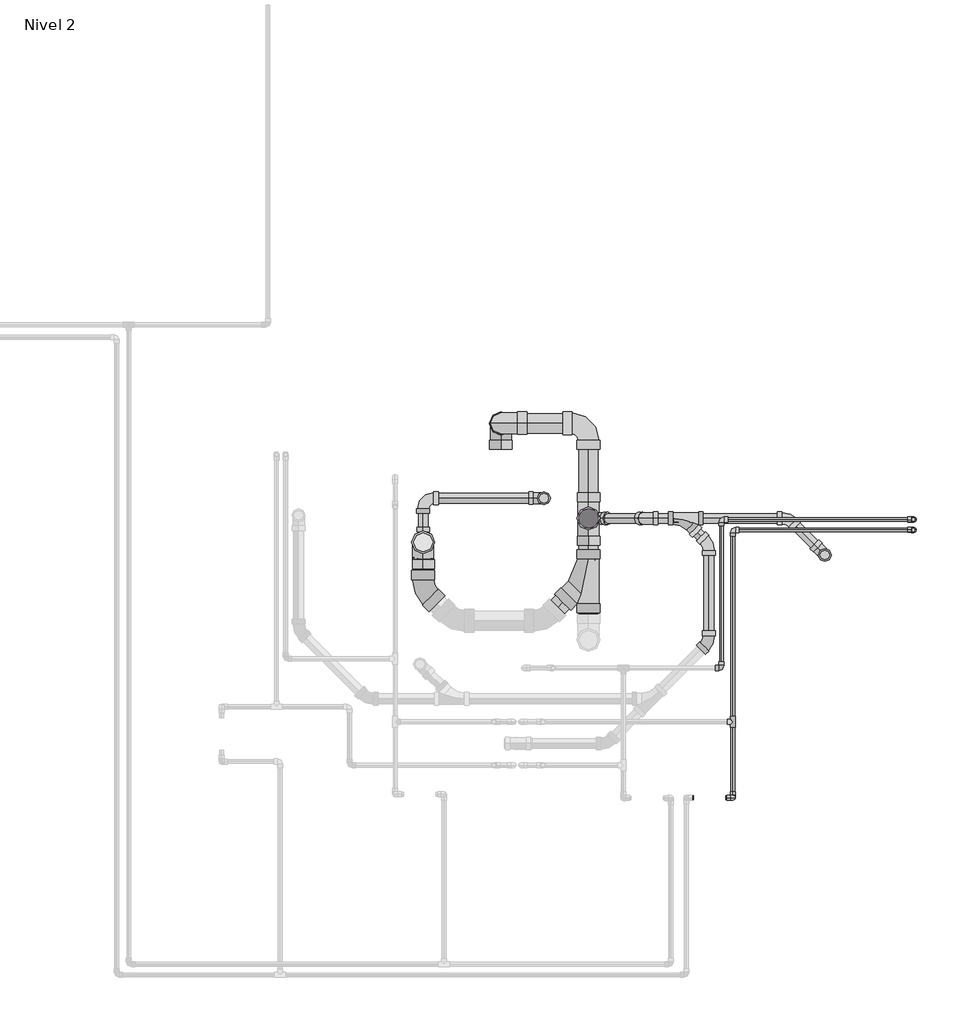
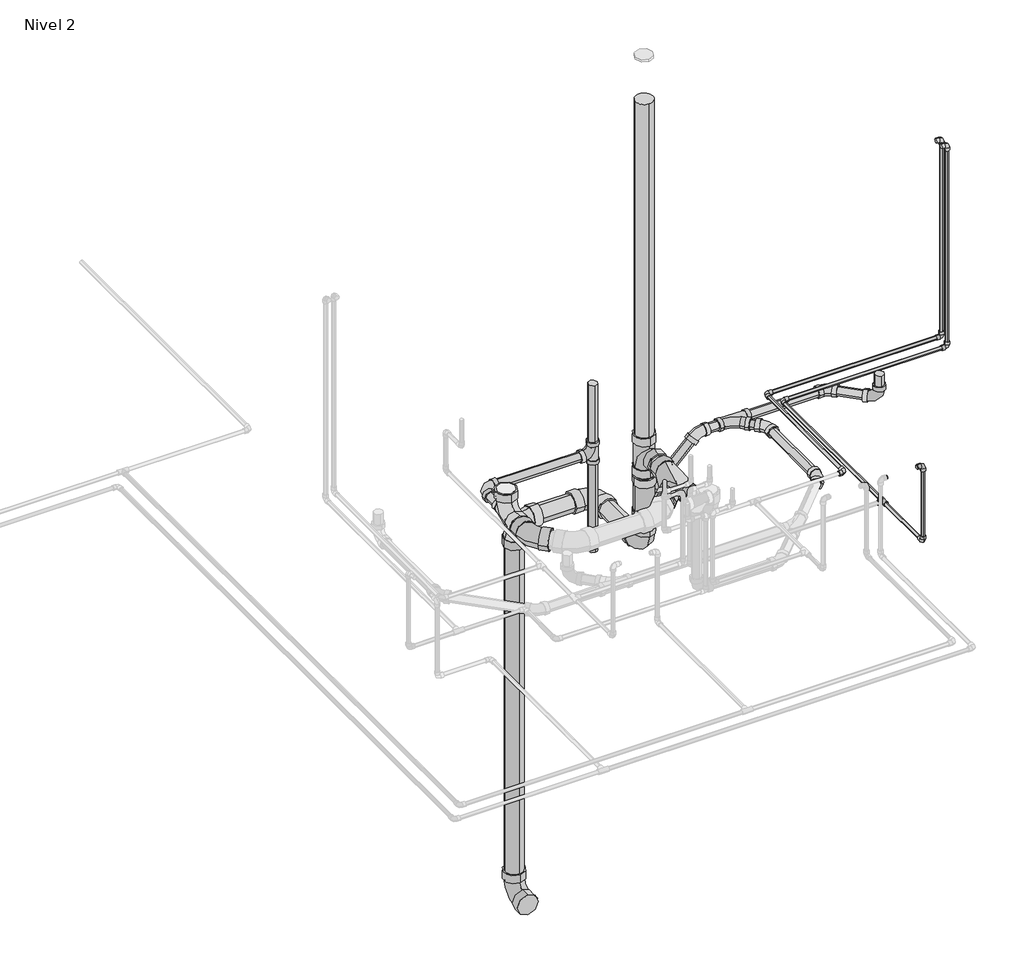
# One storey, part 4 of 9: 31 pipe segments, 27 pipe fittings.
"""IFC4 building model written with IfcOpenShell, lengths in millimetres."""

from ifc_helpers import new_model, si_unit, point, frame, frame_2d, origin, place, context, project, spatial, circle_curve, trimmed, segment, composite_curve, outline, extrude, transform, mapped, element, save
from components import pipe_fitting_ab418b84, pipe_fitting_0163322b, pipe_fitting_2a8dfbef, pipe_fitting_44a425ca, pipe_fitting_6ef1482d, pipe_fitting_ef5974f2, pipe_fitting_528008cb, m_codo_pvc_serie_40_9ad74631, m_codo_pvc_serie_40_dwv1_5c0ec739, m_codo_pvc_serie_40_dwv1_f5c0a64d, m_codo_pvc_serie_40_dwv1_9a7ca077, m_codo_pvc_serie_40_dwv1_6f1a2495

model = new_model("IFC4")

# Units and contexts
model_context = context("Model", 3, world=origin())
ifc_project = project(units=[si_unit("LENGTHUNIT", "METRE", prefix="MILLI")], contexts=[model_context])

# Site, building, storey
site = spatial("IfcSite", under=ifc_project)
building = spatial("IfcBuilding", under=site)
storey = spatial("IfcBuildingStorey", under=building, Name="Nivel 2", Elevation=2800.0)

# Pipe fittings
placement = place(None, origin())
pipe_fitting_shape = pipe_fitting_ab418b84(model_context)
element("IfcPipeFitting", 1, ObjectType="M_Te - PVC - Serie 40 : Estándar", at=placement, inside=storey, context=model_context, shape_type="MappedRepresentation", body=[
    mapped(pipe_fitting_shape, transform((8223.2736664, 5443.3784167, 2720.0), x_axis=(0.0, -1.0, 0.0), y_axis=(1.0, 0.0, 0.0), z_axis=(0.0, 0.0, 1.0))),
])
pipe_fitting_2_shape = pipe_fitting_0163322b(model_context)
element("IfcPipeFitting", 2, ObjectType="M_Sanitario con te de reducción - PVC - Serie 40 - DWV : Estándar", at=placement, inside=storey, context=model_context, shape_type="MappedRepresentation", body=[
    mapped(pipe_fitting_2_shape, transform((7950.1491284, 6556.6039726, 2650.0), x_axis=(1.0, 0.0, 0.0), y_axis=(0.0, 1.0, 0.0), z_axis=(0.0, 0.0, 1.0))),
])
pipe_fitting_3_shape = pipe_fitting_2a8dfbef(model_context)
element("IfcPipeFitting", 3, ObjectType="M_Sanitario con te de reducción - PVC - Serie 40 - DWV : Estándar", at=placement, inside=storey, context=model_context, shape_type="MappedRepresentation", body=[
    mapped(pipe_fitting_3_shape, transform((7432.3176766, 6556.6039726, 2650.0), x_axis=(0.0, 0.0, 1.0), y_axis=(0.0, 1.0, 0.0), z_axis=(-1.0, 0.0, 0.0))),
])
pipe_fitting_4_shape = pipe_fitting_44a425ca(model_context)
element("IfcPipeFitting", 4, ObjectType="M_Sanitario con te de reducción - PVC - Serie 40 - DWV : Estándar", at=placement, inside=storey, context=model_context, shape_type="MappedRepresentation", body=[
    mapped(pipe_fitting_4_shape, transform((6526.9673956, 6425.7039726, 2650.0), x_axis=(0.0, 1.0, 0.0), y_axis=(0.0, 0.0, -1.0), z_axis=(-1.0, 0.0, 0.0))),
])
pipe_fitting_5_shape = pipe_fitting_6ef1482d(model_context)
element("IfcPipeFitting", 5, ObjectType="M_Sanitario con te de reducción - PVC - Serie 40 - DWV : Estándar", at=placement, inside=storey, context=model_context, shape_type="MappedRepresentation", body=[
    mapped(pipe_fitting_5_shape, transform((7186.9673956, 6667.6335141, 2650.0), x_axis=(0.0, 0.0, -1.0), y_axis=(1.0, 0.0, 0.0), z_axis=(0.0, -1.0, 0.0))),
])
pipe_fitting_6_shape = pipe_fitting_ef5974f2(model_context)
element("IfcPipeFitting", 6, ObjectType="M_Sanitario con te de reducción - PVC - Serie 40 - DWV : Estándar", at=placement, inside=storey, context=model_context, shape_type="MappedRepresentation", body=[
    mapped(pipe_fitting_6_shape, transform((7432.3176766, 6556.6039726, 2330.3754221), x_axis=(0.0, 0.0, 1.0), y_axis=(-1.0, 0.0, 0.0), z_axis=(0.0, -1.0, 0.0))),
])
pipe_fitting_7_shape = pipe_fitting_528008cb(model_context)
element("IfcPipeFitting", 7, ObjectType="M_Sanitario con te de reducción - PVC - Serie 40 - DWV : Estándar", at=placement, inside=storey, context=model_context, shape_type="MappedRepresentation", body=[
    mapped(pipe_fitting_7_shape, transform((7432.3176766, 6240.3688287, 2650.0), x_axis=(0.0, -1.0, 0.0), y_axis=(1.0, 0.0, 0.0), z_axis=(0.0, 0.0, 1.0))),
])
m_codo_pvc_serie_40_shape = m_codo_pvc_serie_40_9ad74631(model_context)
element("IfcPipeFitting", 8, ObjectType="M_Codo - PVC - Serie 40 : Estándar", at=placement, inside=storey, context=model_context, shape_type="MappedRepresentation", body=[
    mapped(m_codo_pvc_serie_40_shape, transform((8160.7224481, 6550.9011374, 2750.0), x_axis=(-1.0, 0.0, 0.0), y_axis=(0.0, -1.0, 0.0), z_axis=(0.0, 0.0, 1.0))),
])
element("IfcPipeFitting", 9, ObjectType="M_Codo - PVC - Serie 40 : Estándar", at=placement, inside=storey, context=model_context, shape_type="MappedRepresentation", body=[
    mapped(m_codo_pvc_serie_40_shape, transform((9213.5474126, 6550.9011374, 2750.0), x_axis=(1.0, 0.0, 0.0), y_axis=(0.0, 0.0, 1.0), z_axis=(0.0, -1.0, 0.0))),
])
element("IfcPipeFitting", 10, ObjectType="M_Codo - PVC - Serie 40 : Estándar", at=placement, inside=storey, context=model_context, shape_type="MappedRepresentation", body=[
    mapped(m_codo_pvc_serie_40_shape, transform((9213.5474126, 6550.9011374, 4000.0), x_axis=(0.0, 0.0, 1.0), y_axis=(-1.0, 0.0, 0.0), z_axis=(0.0, -1.0, 0.0))),
])
element("IfcPipeFitting", 11, ObjectType="M_Codo - PVC - Serie 40 : Estándar", at=placement, inside=storey, context=model_context, shape_type="MappedRepresentation", body=[
    mapped(m_codo_pvc_serie_40_shape, transform((8223.2736664, 5028.5261191, 3200.0), x_axis=(1.0, 0.0, 0.0), y_axis=(0.0, 0.0, -1.0), z_axis=(0.0, 1.0, 0.0))),
])
element("IfcPipeFitting", 12, ObjectType="M_Codo - PVC - Serie 40 : Estándar", at=placement, inside=storey, context=model_context, shape_type="MappedRepresentation", body=[
    mapped(m_codo_pvc_serie_40_shape, transform((8223.2736664, 5028.5261191, 2720.0), x_axis=(0.0, 0.0, -1.0), y_axis=(0.0, 1.0, 0.0), z_axis=(1.0, 0.0, 0.0))),
])
element("IfcPipeFitting", 13, ObjectType="M_Codo - PVC - Serie 40 : Estándar", at=placement, inside=storey, context=model_context, shape_type="MappedRepresentation", body=[
    mapped(m_codo_pvc_serie_40_shape, transform((8160.7224481, 5738.1215351, 2750.0), x_axis=(1.0, 0.0, 0.0), y_axis=(0.0, 1.0, 0.0), z_axis=(0.0, 0.0, 1.0))),
])
element("IfcPipeFitting", 14, ObjectType="M_Codo - PVC - Serie 40 : Estándar", at=placement, inside=storey, context=model_context, shape_type="MappedRepresentation", body=[
    mapped(m_codo_pvc_serie_40_shape, transform((8223.2736664, 6493.5261191, 2720.0), x_axis=(-1.0, 0.0, 0.0), y_axis=(0.0, -1.0, 0.0), z_axis=(0.0, 0.0, 1.0))),
])
element("IfcPipeFitting", 15, ObjectType="M_Codo - PVC - Serie 40 : Estándar", at=placement, inside=storey, context=model_context, shape_type="MappedRepresentation", body=[
    mapped(m_codo_pvc_serie_40_shape, transform((9213.2736664, 6493.5261191, 2720.0), x_axis=(1.0, 0.0, 0.0), y_axis=(0.0, 0.0, 1.0), z_axis=(0.0, -1.0, 0.0))),
])
element("IfcPipeFitting", 16, ObjectType="M_Codo - PVC - Serie 40 : Estándar", at=placement, inside=storey, context=model_context, shape_type="MappedRepresentation", body=[
    mapped(m_codo_pvc_serie_40_shape, transform((9213.2736664, 6493.5261191, 4000.0), x_axis=(0.0, 0.0, 1.0), y_axis=(-1.0, 0.0, 0.0), z_axis=(0.0, -1.0, 0.0))),
])
m_codo_pvc_serie_40_dwv1_shape = m_codo_pvc_serie_40_dwv1_5c0ec739(model_context)
element("IfcPipeFitting", 17, ObjectType="M_Codo - PVC - Serie 40 - DWV1 : Estándar 2", at=placement, inside=storey, context=model_context, shape_type="MappedRepresentation", body=[
    mapped(m_codo_pvc_serie_40_dwv1_shape, transform((8726.8497083, 6356.6182224, 2650.0), x_axis=(0.0, 0.0, -1.0), y_axis=(-0.7071067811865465, 0.7071067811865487, 0.0), z_axis=(0.7071067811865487, 0.7071067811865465, 0.0))),
])
element("IfcPipeFitting", 18, ObjectType="M_Codo - PVC - Serie 40 - DWV1 : Estándar 2", at=placement, inside=storey, context=model_context, shape_type="MappedRepresentation", body=[
    mapped(m_codo_pvc_serie_40_dwv1_shape, transform((6526.9673956, 6667.6335141, 2650.0), x_axis=(-1.0, 0.0, 0.0), y_axis=(0.0, -1.0, 0.0), z_axis=(0.0, 0.0, 1.0))),
])
m_codo_pvc_serie_40_dwv1_2_shape = m_codo_pvc_serie_40_dwv1_f5c0a64d(model_context)
element("IfcPipeFitting", 19, ObjectType="M_Codo - PVC - Serie 40 - DWV1 : Estándar 2", at=placement, inside=storey, context=model_context, shape_type="MappedRepresentation", body=[
    mapped(m_codo_pvc_serie_40_dwv1_2_shape, transform((7432.3171047, 6556.6039726, 2044.5807073), x_axis=(-3.1772928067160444e-06, 0.0, -0.9999999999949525), y_axis=(0.0, 1.0000000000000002, 0.0), z_axis=(0.9999999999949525, 0.0, -3.1772928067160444e-06))),
])
element("IfcPipeFitting", 20, ObjectType="M_Codo - PVC - Serie 40 - DWV1 : Estándar 2", at=placement, inside=storey, context=model_context, shape_type="MappedRepresentation", body=[
    mapped(m_codo_pvc_serie_40_dwv1_2_shape, transform((7432.3171047, 7076.6039726, 2044.5807073), x_axis=(0.0, 1.0, 0.0), y_axis=(-1.0, 0.0, 0.0), z_axis=(0.0, 0.0, 1.0))),
])
element("IfcPipeFitting", 21, ObjectType="M_Codo - PVC - Serie 40 - DWV1 : Estándar 2", at=placement, inside=storey, context=model_context, shape_type="MappedRepresentation", body=[
    mapped(m_codo_pvc_serie_40_dwv1_2_shape, transform((6952.3171047, 7076.6039726, 2044.5807073), x_axis=(-1.0, 0.0, 0.0), y_axis=(0.0, 0.0, -1.0), z_axis=(0.0, -1.0, 0.0))),
])
element("IfcPipeFitting", 22, ObjectType="M_Codo - PVC - Serie 40 - DWV1 : Estándar 2", at=placement, inside=storey, context=model_context, shape_type="MappedRepresentation", body=[
    mapped(m_codo_pvc_serie_40_dwv1_2_shape, transform((6952.3171047, 7076.6039726, -300.0), x_axis=(0.0, 0.0, -1.0), y_axis=(0.0, -1.0, 0.0), z_axis=(-1.0, 0.0, 0.0))),
])
m_codo_pvc_serie_40_dwv1_3_shape = m_codo_pvc_serie_40_dwv1_9a7ca077(model_context)
element("IfcPipeFitting", 23, ObjectType="M_Codo - PVC - Serie 40 - DWV1 : Estándar 2", at=placement, inside=storey, context=model_context, shape_type="MappedRepresentation", body=[
    mapped(m_codo_pvc_serie_40_dwv1_3_shape, transform((6526.9673956, 6165.7039726, 2650.0), x_axis=(0.0, -1.0, 0.0), y_axis=(1.0, 0.0, 0.0), z_axis=(0.0, 0.0, 1.0))),
])
m_codo_pvc_serie_40_dwv1_4_shape = m_codo_pvc_serie_40_dwv1_6f1a2495(model_context)
element("IfcPipeFitting", 24, ObjectType="M_Codo - PVC - Serie 40 - DWV1 : Estándar 2", at=placement, inside=storey, context=model_context, shape_type="MappedRepresentation", body=[
    mapped(m_codo_pvc_serie_40_dwv1_4_shape, transform((8090.9591157, 5880.4374664, 2650.0), x_axis=(0.7071067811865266, 0.7071067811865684, 0.0), y_axis=(-0.7071067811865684, 0.7071067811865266, 0.0), z_axis=(0.0, 0.0, 1.0))),
])
element("IfcPipeFitting", 25, ObjectType="M_Codo - PVC - Serie 40 - DWV1 : Estándar 2", at=placement, inside=storey, context=model_context, shape_type="MappedRepresentation", body=[
    mapped(m_codo_pvc_serie_40_dwv1_4_shape, transform((8526.8639581, 6556.6039726, 2650.0), x_axis=(-0.7071067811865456, 0.7071067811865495, 0.0), y_axis=(-0.7071067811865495, -0.7071067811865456, 0.0), z_axis=(0.0, 0.0, 1.0))),
])
element("IfcPipeFitting", 26, ObjectType="M_Codo - PVC - Serie 40 - DWV1 : Estándar 2", at=placement, inside=storey, context=model_context, shape_type="MappedRepresentation", body=[
    mapped(m_codo_pvc_serie_40_dwv1_4_shape, transform((8090.9591157, 6415.7939854, 2650.0), x_axis=(0.0, 1.0, 0.0), y_axis=(-1.0, 0.0, 0.0), z_axis=(0.0, 0.0, 1.0))),
])
element("IfcPipeFitting", 27, ObjectType="M_Codo - PVC - Serie 40 - DWV1 : Estándar 2", at=placement, inside=storey, context=model_context, shape_type="MappedRepresentation", body=[
    mapped(m_codo_pvc_serie_40_dwv1_4_shape, transform((7751.9422545, 6556.6039726, 2650.0), x_axis=(-1.0, 0.0, 0.0), y_axis=(0.0, 0.0, -1.0), z_axis=(0.0, -1.0, 0.0))),
])

# Pipe segments
element("IfcPipeSegment", 28, ObjectType="Tuberia PVC Agua Fria", at=placement, inside=storey, context=model_context, shape_type="SweptSolid", body=[
    extrude(outline(composite_curve([segment(trimmed(circle_curve(frame_2d((2750.0, 8160.7224481)), 10.31875), [point((2750.0, 8171.0411981))], [point((2760.31875, 8160.7224481))], False, "CARTESIAN"), True, "CONTINUOUS"), segment(trimmed(circle_curve(frame_2d((2750.0, 8160.7224481)), 10.31875), [point((2760.31875, 8160.7224481))], [point((2750.0, 8150.4036981))], False, "CARTESIAN"), True, "CONTINUOUS"), segment(trimmed(circle_curve(frame_2d((2750.0, 8160.7224481)), 10.31875), [point((2750.0, 8150.4036981))], [point((2739.68125, 8160.7224481))], False, "CARTESIAN"), True, "CONTINUOUS"), segment(trimmed(circle_curve(frame_2d((2750.0, 8160.7224481)), 10.31875), [point((2739.68125, 8160.7224481))], [point((2750.0, 8171.0411981))], False, "CARTESIAN"), True, "CONTINUOUS")], self_intersect=False)), frame((0.0, 5771.5225351, 0.0), z_axis=(0.0, 1.0, 0.0), x_axis=(0.0, 0.0, 1.0)), (0.0, 0.0, 1.0), 745.9776022),
])
element("IfcPipeSegment", 29, ObjectType="Tuberia PVC Agua Fria", at=placement, inside=storey, context=model_context, shape_type="SweptSolid", body=[
    extrude(outline(composite_curve([segment(trimmed(circle_curve(frame_2d((6550.9011374, 2750.0)), 10.31875), [point((6540.5823874, 2750.0))], [point((6550.9011374, 2760.31875))], False, "CARTESIAN"), True, "CONTINUOUS"), segment(trimmed(circle_curve(frame_2d((6550.9011374, 2750.0)), 10.31875), [point((6550.9011374, 2760.31875))], [point((6561.2198874, 2750.0))], False, "CARTESIAN"), True, "CONTINUOUS"), segment(trimmed(circle_curve(frame_2d((6550.9011374, 2750.0)), 10.31875), [point((6561.2198874, 2750.0))], [point((6550.9011374, 2739.68125))], False, "CARTESIAN"), True, "CONTINUOUS"), segment(trimmed(circle_curve(frame_2d((6550.9011374, 2750.0)), 10.31875), [point((6550.9011374, 2739.68125))], [point((6540.5823874, 2750.0))], False, "CARTESIAN"), True, "CONTINUOUS")], self_intersect=False)), frame((8194.1234481, 0.0, 0.0), z_axis=(1.0, 0.0, 0.0), x_axis=(0.0, 1.0, 0.0)), (0.0, 0.0, 1.0), 986.0229645),
])
element("IfcPipeSegment", 30, ObjectType="Tuberia PVC Agua Fria", at=placement, inside=storey, context=model_context, shape_type="SweptSolid", body=[
    extrude(outline(composite_curve([segment(trimmed(circle_curve(frame_2d((9213.5474126, 6550.9011374)), 10.31875), [point((9203.2286626, 6550.9011374))], [point((9213.5474126, 6561.2198874))], False, "CARTESIAN"), True, "CONTINUOUS"), segment(trimmed(circle_curve(frame_2d((9213.5474126, 6550.9011374)), 10.31875), [point((9213.5474126, 6561.2198874))], [point((9223.8661626, 6550.9011374))], False, "CARTESIAN"), True, "CONTINUOUS"), segment(trimmed(circle_curve(frame_2d((9213.5474126, 6550.9011374)), 10.31875), [point((9223.8661626, 6550.9011374))], [point((9213.5474126, 6540.5823874))], False, "CARTESIAN"), True, "CONTINUOUS"), segment(trimmed(circle_curve(frame_2d((9213.5474126, 6550.9011374)), 10.31875), [point((9213.5474126, 6540.5823874))], [point((9203.2286626, 6550.9011374))], False, "CARTESIAN"), True, "CONTINUOUS")], self_intersect=False)), frame((0.0, 0.0, 2783.401), z_axis=(0.0, 0.0, 1.0), x_axis=(1.0, 0.0, 0.0)), (0.0, 0.0, 1.0), 1183.198),
])
element("IfcPipeSegment", 31, ObjectType="Tuberia PVC VENTILACION", at=placement, inside=storey, context=model_context, shape_type="SweptSolid", body=[
    extrude(outline(composite_curve([segment(trimmed(circle_curve(frame_2d((2650.0, 6526.9673956)), 26.9875), [point((2650.0, 6553.9548956))], [point((2676.9875, 6526.9673956))], False, "CARTESIAN"), True, "CONTINUOUS"), segment(trimmed(circle_curve(frame_2d((2650.0, 6526.9673956)), 26.9875), [point((2676.9875, 6526.9673956))], [point((2650.0, 6499.9798956))], False, "CARTESIAN"), True, "CONTINUOUS"), segment(trimmed(circle_curve(frame_2d((2650.0, 6526.9673956)), 26.9875), [point((2650.0, 6499.9798956))], [point((2623.0125, 6526.9673956))], False, "CARTESIAN"), True, "CONTINUOUS"), segment(trimmed(circle_curve(frame_2d((2650.0, 6526.9673956)), 26.9875), [point((2623.0125, 6526.9673956))], [point((2650.0, 6553.9548956))], False, "CARTESIAN"), True, "CONTINUOUS")], self_intersect=False)), frame((0.0, 6507.6335141, 0.0), z_axis=(0.0, 1.0, 0.0), x_axis=(0.0, 0.0, 1.0)), (0.0, 0.0, 1.0), 77.4579375),
])
element("IfcPipeSegment", 32, ObjectType="Tuberia PVC VENTILACION", at=placement, inside=storey, context=model_context, shape_type="SweptSolid", body=[
    extrude(outline(composite_curve([segment(trimmed(circle_curve(frame_2d((6667.6335141, 2650.0)), 26.9875), [point((6640.6460141, 2650.0))], [point((6667.6335141, 2676.9875))], False, "CARTESIAN"), True, "CONTINUOUS"), segment(trimmed(circle_curve(frame_2d((6667.6335141, 2650.0)), 26.9875), [point((6667.6335141, 2676.9875))], [point((6694.6210141, 2650.0))], False, "CARTESIAN"), True, "CONTINUOUS"), segment(trimmed(circle_curve(frame_2d((6667.6335141, 2650.0)), 26.9875), [point((6694.6210141, 2650.0))], [point((6667.6335141, 2623.0125))], False, "CARTESIAN"), True, "CONTINUOUS"), segment(trimmed(circle_curve(frame_2d((6667.6335141, 2650.0)), 26.9875), [point((6667.6335141, 2623.0125))], [point((6640.6460141, 2650.0))], False, "CARTESIAN"), True, "CONTINUOUS")], self_intersect=False)), frame((6609.5094581, 0.0, 0.0), z_axis=(1.0, 0.0, 0.0), x_axis=(0.0, 1.0, 0.0)), (0.0, 0.0, 1.0), 495.6659688),
])
element("IfcPipeSegment", 33, ObjectType="Tuberia PVC VENTILACION", at=placement, inside=storey, context=model_context, shape_type="SweptSolid", body=[
    extrude(outline(composite_curve([segment(trimmed(circle_curve(frame_2d((7186.9673956, 6667.6335141)), 26.9875), [point((7159.9798956, 6667.6335141))], [point((7186.9673956, 6694.6210141))], False, "CARTESIAN"), True, "CONTINUOUS"), segment(trimmed(circle_curve(frame_2d((7186.9673956, 6667.6335141)), 26.9875), [point((7186.9673956, 6694.6210141))], [point((7213.9548956, 6667.6335141))], False, "CARTESIAN"), True, "CONTINUOUS"), segment(trimmed(circle_curve(frame_2d((7186.9673956, 6667.6335141)), 26.9875), [point((7213.9548956, 6667.6335141))], [point((7186.9673956, 6640.6460141))], False, "CARTESIAN"), True, "CONTINUOUS"), segment(trimmed(circle_curve(frame_2d((7186.9673956, 6667.6335141)), 26.9875), [point((7186.9673956, 6640.6460141))], [point((7159.9798956, 6667.6335141))], False, "CARTESIAN"), True, "CONTINUOUS")], self_intersect=False)), frame((0.0, 0.0, 2729.9344667), z_axis=(0.0, 0.0, 1.0), x_axis=(1.0, 0.0, 0.0)), (0.0, 0.0, 1.0), 360.0655333),
])
element("IfcPipeSegment", 34, ObjectType="Tuberia PVC VENTILACION", at=placement, inside=storey, context=model_context, shape_type="SweptSolid", body=[
    extrude(outline(composite_curve([segment(trimmed(circle_curve(frame_2d((7186.9673956, 6667.6335141)), 26.9875), [point((7213.9548956, 6667.6335141))], [point((7186.9673956, 6640.6460141))], False, "CARTESIAN"), True, "CONTINUOUS"), segment(trimmed(circle_curve(frame_2d((7186.9673956, 6667.6335141)), 26.9875), [point((7186.9673956, 6640.6460141))], [point((7159.9798956, 6667.6335141))], False, "CARTESIAN"), True, "CONTINUOUS"), segment(trimmed(circle_curve(frame_2d((7186.9673956, 6667.6335141)), 26.9875), [point((7159.9798956, 6667.6335141))], [point((7186.9673956, 6694.6210141))], False, "CARTESIAN"), True, "CONTINUOUS"), segment(trimmed(circle_curve(frame_2d((7186.9673956, 6667.6335141)), 26.9875), [point((7186.9673956, 6694.6210141))], [point((7213.9548956, 6667.6335141))], False, "CARTESIAN"), True, "CONTINUOUS")], self_intersect=False)), frame((0.0, 0.0, 2032.8070105), z_axis=(0.0, 0.0, 1.0), x_axis=(1.0, 0.0, 0.0)), (0.0, 0.0, 1.0), 560.0),
])
element("IfcPipeSegment", 35, ObjectType="Tuberia PVC Agua Caliente", at=placement, inside=storey, context=model_context, shape_type="SweptSolid", body=[
    extrude(outline(composite_curve([segment(trimmed(circle_curve(frame_2d((5028.5261191, 3200.0)), 10.31875), [point((5018.2073691, 3200.0))], [point((5028.5261191, 3210.31875))], False, "CARTESIAN"), True, "CONTINUOUS"), segment(trimmed(circle_curve(frame_2d((5028.5261191, 3200.0)), 10.31875), [point((5028.5261191, 3210.31875))], [point((5038.8448691, 3200.0))], False, "CARTESIAN"), True, "CONTINUOUS"), segment(trimmed(circle_curve(frame_2d((5028.5261191, 3200.0)), 10.31875), [point((5038.8448691, 3200.0))], [point((5028.5261191, 3189.68125))], False, "CARTESIAN"), True, "CONTINUOUS"), segment(trimmed(circle_curve(frame_2d((5028.5261191, 3200.0)), 10.31875), [point((5028.5261191, 3189.68125))], [point((5018.2073691, 3200.0))], False, "CARTESIAN"), True, "CONTINUOUS")], self_intersect=False)), frame((8184.7736664, 0.0, 0.0), z_axis=(1.0, 0.0, 0.0), x_axis=(0.0, 1.0, 0.0)), (0.0, 0.0, 1.0), 5.099),
])
element("IfcPipeSegment", 36, ObjectType="Tuberia PVC Agua Caliente", at=placement, inside=storey, context=model_context, shape_type="SweptSolid", body=[
    extrude(outline(composite_curve([segment(trimmed(circle_curve(frame_2d((8223.2736664, 5028.5261191)), 10.31875), [point((8233.5924164, 5028.5261191))], [point((8223.2736664, 5018.2073691))], False, "CARTESIAN"), True, "CONTINUOUS"), segment(trimmed(circle_curve(frame_2d((8223.2736664, 5028.5261191)), 10.31875), [point((8223.2736664, 5018.2073691))], [point((8212.9549164, 5028.5261191))], False, "CARTESIAN"), True, "CONTINUOUS"), segment(trimmed(circle_curve(frame_2d((8223.2736664, 5028.5261191)), 10.31875), [point((8212.9549164, 5028.5261191))], [point((8223.2736664, 5038.8448691))], False, "CARTESIAN"), True, "CONTINUOUS"), segment(trimmed(circle_curve(frame_2d((8223.2736664, 5028.5261191)), 10.31875), [point((8223.2736664, 5038.8448691))], [point((8233.5924164, 5028.5261191))], False, "CARTESIAN"), True, "CONTINUOUS")], self_intersect=False)), frame((0.0, 0.0, 2753.401), z_axis=(0.0, 0.0, 1.0), x_axis=(1.0, 0.0, 0.0)), (0.0, 0.0, 1.0), 413.198),
])
element("IfcPipeSegment", 37, ObjectType="Tuberia PVC Agua Caliente", at=placement, inside=storey, context=model_context, shape_type="SweptSolid", body=[
    extrude(outline(composite_curve([segment(trimmed(circle_curve(frame_2d((6493.5261191, 2720.0)), 10.31875), [point((6483.2073691, 2720.0))], [point((6493.5261191, 2730.31875))], False, "CARTESIAN"), True, "CONTINUOUS"), segment(trimmed(circle_curve(frame_2d((6493.5261191, 2720.0)), 10.31875), [point((6493.5261191, 2730.31875))], [point((6503.8448691, 2720.0))], False, "CARTESIAN"), True, "CONTINUOUS"), segment(trimmed(circle_curve(frame_2d((6493.5261191, 2720.0)), 10.31875), [point((6503.8448691, 2720.0))], [point((6493.5261191, 2709.68125))], False, "CARTESIAN"), True, "CONTINUOUS"), segment(trimmed(circle_curve(frame_2d((6493.5261191, 2720.0)), 10.31875), [point((6493.5261191, 2709.68125))], [point((6483.2073691, 2720.0))], False, "CARTESIAN"), True, "CONTINUOUS")], self_intersect=False)), frame((8256.6746664, 0.0, 0.0), z_axis=(1.0, 0.0, 0.0), x_axis=(0.0, 1.0, 0.0)), (0.0, 0.0, 1.0), 923.198),
])
element("IfcPipeSegment", 38, ObjectType="Tuberia PVC Agua Caliente", at=placement, inside=storey, context=model_context, shape_type="SweptSolid", body=[
    extrude(outline(composite_curve([segment(trimmed(circle_curve(frame_2d((9213.2736664, 6493.5261191)), 10.31875), [point((9202.9549164, 6493.5261191))], [point((9213.2736664, 6503.8448691))], False, "CARTESIAN"), True, "CONTINUOUS"), segment(trimmed(circle_curve(frame_2d((9213.2736664, 6493.5261191)), 10.31875), [point((9213.2736664, 6503.8448691))], [point((9223.5924164, 6493.5261191))], False, "CARTESIAN"), True, "CONTINUOUS"), segment(trimmed(circle_curve(frame_2d((9213.2736664, 6493.5261191)), 10.31875), [point((9223.5924164, 6493.5261191))], [point((9213.2736664, 6483.2073691))], False, "CARTESIAN"), True, "CONTINUOUS"), segment(trimmed(circle_curve(frame_2d((9213.2736664, 6493.5261191)), 10.31875), [point((9213.2736664, 6483.2073691))], [point((9202.9549164, 6493.5261191))], False, "CARTESIAN"), True, "CONTINUOUS")], self_intersect=False)), frame((0.0, 0.0, 2753.401), z_axis=(0.0, 0.0, 1.0), x_axis=(1.0, 0.0, 0.0)), (0.0, 0.0, 1.0), 1213.198),
])
element("IfcPipeSegment", 39, ObjectType="Tuberia PVC Agua Caliente", at=placement, inside=storey, context=model_context, shape_type="SweptSolid", body=[
    extrude(outline(composite_curve([segment(trimmed(circle_curve(frame_2d((2720.0, 8223.2736664)), 10.31875), [point((2720.0, 8233.5924164))], [point((2730.31875, 8223.2736664))], False, "CARTESIAN"), True, "CONTINUOUS"), segment(trimmed(circle_curve(frame_2d((2720.0, 8223.2736664)), 10.31875), [point((2730.31875, 8223.2736664))], [point((2720.0, 8212.9549164))], False, "CARTESIAN"), True, "CONTINUOUS"), segment(trimmed(circle_curve(frame_2d((2720.0, 8223.2736664)), 10.31875), [point((2720.0, 8212.9549164))], [point((2709.68125, 8223.2736664))], False, "CARTESIAN"), True, "CONTINUOUS"), segment(trimmed(circle_curve(frame_2d((2720.0, 8223.2736664)), 10.31875), [point((2709.68125, 8223.2736664))], [point((2720.0, 8233.5924164))], False, "CARTESIAN"), True, "CONTINUOUS")], self_intersect=False)), frame((0.0, 5473.8385729, 0.0), z_axis=(0.0, 1.0, 0.0), x_axis=(0.0, 0.0, 1.0)), (0.0, 0.0, 1.0), 986.2865461),
])
element("IfcPipeSegment", 40, ObjectType="Tuberia PVC Agua Caliente", at=placement, inside=storey, context=model_context, shape_type="SweptSolid", body=[
    extrude(outline(composite_curve([segment(trimmed(circle_curve(frame_2d((2720.0, 8223.2736664)), 10.31875), [point((2720.0, 8233.5924164))], [point((2730.31875, 8223.2736664))], False, "CARTESIAN"), True, "CONTINUOUS"), segment(trimmed(circle_curve(frame_2d((2720.0, 8223.2736664)), 10.31875), [point((2730.31875, 8223.2736664))], [point((2720.0, 8212.9549164))], False, "CARTESIAN"), True, "CONTINUOUS"), segment(trimmed(circle_curve(frame_2d((2720.0, 8223.2736664)), 10.31875), [point((2720.0, 8212.9549164))], [point((2709.68125, 8223.2736664))], False, "CARTESIAN"), True, "CONTINUOUS"), segment(trimmed(circle_curve(frame_2d((2720.0, 8223.2736664)), 10.31875), [point((2709.68125, 8223.2736664))], [point((2720.0, 8233.5924164))], False, "CARTESIAN"), True, "CONTINUOUS")], self_intersect=False)), frame((0.0, 5061.9271191, 0.0), z_axis=(0.0, 1.0, 0.0), x_axis=(0.0, 0.0, 1.0)), (0.0, 0.0, 1.0), 350.9911414),
])
element("IfcPipeSegment", 41, ObjectType="Tuberia PVC Agua Caliente", at=placement, inside=storey, context=model_context, shape_type="SweptSolid", body=[
    extrude(outline(composite_curve([segment(trimmed(circle_curve(frame_2d((5028.5261191, 3200.0)), 10.31875), [point((5018.2073691, 3200.0))], [point((5028.5261191, 3210.31875))], False, "CARTESIAN"), True, "CONTINUOUS"), segment(trimmed(circle_curve(frame_2d((5028.5261191, 3200.0)), 10.31875), [point((5028.5261191, 3210.31875))], [point((5038.8448691, 3200.0))], False, "CARTESIAN"), True, "CONTINUOUS"), segment(trimmed(circle_curve(frame_2d((5028.5261191, 3200.0)), 10.31875), [point((5038.8448691, 3200.0))], [point((5028.5261191, 3189.68125))], False, "CARTESIAN"), True, "CONTINUOUS"), segment(trimmed(circle_curve(frame_2d((5028.5261191, 3200.0)), 10.31875), [point((5028.5261191, 3189.68125))], [point((5018.2073691, 3200.0))], False, "CARTESIAN"), True, "CONTINUOUS")], self_intersect=False)), frame((8001.6746664, 0.0, 0.0), z_axis=(1.0, 0.0, 0.0), x_axis=(0.0, 1.0, 0.0)), (0.0, 0.0, 1.0), 5.099),
])
element("IfcPipeSegment", 42, ObjectType="Tuberia PVC Sanitario", at=placement, inside=storey, context=model_context, shape_type="SweptSolid", body=[
    extrude(outline(composite_curve([segment(trimmed(circle_curve(frame_2d((0.0, 52.3875)), 52.3875), [point((0.0, 104.775))], [point((52.3875, 52.3875))], False, "CARTESIAN"), True, "CONTINUOUS"), segment(trimmed(circle_curve(frame_2d((0.0, 52.3875)), 52.3875), [point((52.3875, 52.3875))], [point((0.0, 0.0))], False, "CARTESIAN"), True, "CONTINUOUS"), segment(trimmed(circle_curve(frame_2d((0.0, 52.3875)), 52.3875), [point((0.0, 0.0))], [point((-52.3875, 52.3875))], False, "CARTESIAN"), True, "CONTINUOUS"), segment(trimmed(circle_curve(frame_2d((0.0, 52.3875)), 52.3875), [point((-52.3875, 52.3875))], [point((0.0, 104.775))], False, "CARTESIAN"), True, "CONTINUOUS")], self_intersect=False)), frame((7379.9301766, 6384.2635434, 2650.0), z_axis=(1.9533465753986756e-12, 1.0, 0.0), x_axis=(0.0, 0.0, 1.0)), (0.0, 0.0, 1.0), 25.5244605),
])
element("IfcPipeSegment", 43, ObjectType="Tuberia PVC Sanitario", at=placement, inside=storey, context=model_context, shape_type="SweptSolid", body=[
    extrude(outline(composite_curve([segment(trimmed(circle_curve(frame_2d((0.0, -52.3875)), 52.3875), [point((-52.3875, -52.3875))], [point((0.0, 0.0))], False, "CARTESIAN"), True, "CONTINUOUS"), segment(trimmed(circle_curve(frame_2d((0.0, -52.3875)), 52.3875), [point((0.0, 0.0))], [point((52.3875, -52.3875))], False, "CARTESIAN"), True, "CONTINUOUS"), segment(trimmed(circle_curve(frame_2d((0.0, -52.3875)), 52.3875), [point((52.3875, -52.3875))], [point((0.0, -104.775))], False, "CARTESIAN"), True, "CONTINUOUS"), segment(trimmed(circle_curve(frame_2d((0.0, -52.3875)), 52.3875), [point((0.0, -104.775))], [point((-52.3875, -52.3875))], False, "CARTESIAN"), True, "CONTINUOUS")], self_intersect=False)), frame((7263.870903, 6071.9220551, 2597.6125), z_axis=(0.7071067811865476, 0.7071067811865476, 0.0), x_axis=(0.7071067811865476, -0.7071067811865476, 0.0)), (0.0, 0.0, 1.0), 37.2473985),
])
element("IfcPipeSegment", 44, ObjectType="Tuberia PVC Sanitario", at=placement, inside=storey, context=model_context, shape_type="SweptSolid", body=[
    extrude(outline(composite_curve([segment(trimmed(circle_curve(frame_2d((0.0, 52.3875)), 52.3875), [point((0.0, 104.775))], [point((52.3875, 52.3875))], False, "CARTESIAN"), True, "CONTINUOUS"), segment(trimmed(circle_curve(frame_2d((0.0, 52.3875)), 52.3875), [point((52.3875, 52.3875))], [point((0.0, 0.0))], False, "CARTESIAN"), True, "CONTINUOUS"), segment(trimmed(circle_curve(frame_2d((0.0, 52.3875)), 52.3875), [point((0.0, 0.0))], [point((-52.3875, 52.3875))], False, "CARTESIAN"), True, "CONTINUOUS"), segment(trimmed(circle_curve(frame_2d((0.0, 52.3875)), 52.3875), [point((-52.3875, 52.3875))], [point((0.0, 104.775))], False, "CARTESIAN"), True, "CONTINUOUS")], self_intersect=False)), frame((7379.9301766, 6033.0740351, 2650.0), z_axis=(-1.374577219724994e-12, 1.0, 0.0), x_axis=(0.0, 0.0, 1.0)), (0.0, 0.0, 1.0), 6.3224804),
])
element("IfcPipeSegment", 45, ObjectType="Tuberia PVC Sanitario", at=placement, inside=storey, context=model_context, shape_type="SweptSolid", body=[
    extrude(outline(composite_curve([segment(trimmed(circle_curve(frame_2d((0.0, 26.9875)), 26.9875), [point((26.9875001, 26.9875))], [point((0.0, 0.0))], False, "CARTESIAN"), True, "CONTINUOUS"), segment(trimmed(circle_curve(frame_2d((0.0, 26.9875)), 26.9875), [point((0.0, 0.0))], [point((-26.9875, 26.9875))], False, "CARTESIAN"), True, "CONTINUOUS"), segment(trimmed(circle_curve(frame_2d((0.0, 26.9875)), 26.9875), [point((-26.9875, 26.9875))], [point((0.0, 53.975))], False, "CARTESIAN"), True, "CONTINUOUS"), segment(trimmed(circle_curve(frame_2d((0.0, 26.9875)), 26.9875), [point((0.0, 53.975))], [point((26.9875001, 26.9875))], False, "CARTESIAN"), True, "CONTINUOUS")], self_intersect=False)), frame((8668.4836562, 6414.9842745, 2676.9875), z_axis=(-0.7071067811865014, 0.7071067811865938, 0.0), x_axis=(0.7071067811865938, 0.7071067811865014, 0.0)), (0.0, 0.0, 1.0), 139.8523103),
])
element("IfcPipeSegment", 46, ObjectType="Tuberia PVC Sanitario", at=placement, inside=storey, context=model_context, shape_type="SweptSolid", body=[
    extrude(outline(composite_curve([segment(trimmed(circle_curve(frame_2d((8726.8497083, 6356.6182224)), 26.9875), [point((8699.8622083, 6356.6182224))], [point((8726.8497083, 6383.6057224))], False, "CARTESIAN"), True, "CONTINUOUS"), segment(trimmed(circle_curve(frame_2d((8726.8497083, 6356.6182224)), 26.9875), [point((8726.8497083, 6383.6057224))], [point((8753.8372083, 6356.6182224))], False, "CARTESIAN"), True, "CONTINUOUS"), segment(trimmed(circle_curve(frame_2d((8726.8497083, 6356.6182224)), 26.9875), [point((8753.8372083, 6356.6182224))], [point((8726.8497083, 6329.6307224))], False, "CARTESIAN"), True, "CONTINUOUS"), segment(trimmed(circle_curve(frame_2d((8726.8497083, 6356.6182224)), 26.9875), [point((8726.8497083, 6329.6307224))], [point((8699.8622083, 6356.6182224))], False, "CARTESIAN"), True, "CONTINUOUS")], self_intersect=False)), frame((0.0, 0.0, 2732.5420625), z_axis=(0.0, 0.0, 1.0), x_axis=(1.0, 0.0, 0.0)), (0.0, 0.0, 1.0), 67.4579375),
])
element("IfcPipeSegment", 47, ObjectType="Tuberia PVC Sanitario", at=placement, inside=storey, context=model_context, shape_type="SweptSolid", body=[
    extrude(outline(composite_curve([segment(trimmed(circle_curve(frame_2d((2650.0, 8090.9591157)), 26.9875), [point((2650.0, 8117.9466157))], [point((2676.9875, 8090.9591157))], False, "CARTESIAN"), True, "CONTINUOUS"), segment(trimmed(circle_curve(frame_2d((2650.0, 8090.9591157)), 26.9875), [point((2676.9875, 8090.9591157))], [point((2650.0, 8063.9716157))], False, "CARTESIAN"), True, "CONTINUOUS"), segment(trimmed(circle_curve(frame_2d((2650.0, 8090.9591157)), 26.9875), [point((2650.0, 8063.9716157))], [point((2623.0125, 8090.9591157))], False, "CARTESIAN"), True, "CONTINUOUS"), segment(trimmed(circle_curve(frame_2d((2650.0, 8090.9591157)), 26.9875), [point((2623.0125, 8090.9591157))], [point((2650.0, 8117.9466157))], False, "CARTESIAN"), True, "CONTINUOUS")], self_intersect=False)), frame((0.0, 5940.8656539, 0.0), z_axis=(0.0, 1.0, 0.0), x_axis=(0.0, 0.0, 1.0)), (0.0, 0.0, 1.0), 414.500144),
])
element("IfcPipeSegment", 48, ObjectType="Tuberia PVC Sanitario", at=placement, inside=storey, context=model_context, shape_type="SweptSolid", body=[
    extrude(outline(composite_curve([segment(trimmed(circle_curve(frame_2d((6556.6039726, 2650.0)), 26.9875), [point((6583.5914726, 2650.0))], [point((6556.6039726, 2623.0125))], False, "CARTESIAN"), True, "CONTINUOUS"), segment(trimmed(circle_curve(frame_2d((6556.6039726, 2650.0)), 26.9875), [point((6556.6039726, 2623.0125))], [point((6529.6164726, 2650.0))], False, "CARTESIAN"), True, "CONTINUOUS"), segment(trimmed(circle_curve(frame_2d((6556.6039726, 2650.0)), 26.9875), [point((6529.6164726, 2650.0))], [point((6556.6039726, 2676.9875))], False, "CARTESIAN"), True, "CONTINUOUS"), segment(trimmed(circle_curve(frame_2d((6556.6039726, 2650.0)), 26.9875), [point((6556.6039726, 2676.9875))], [point((6583.5914726, 2650.0))], False, "CARTESIAN"), True, "CONTINUOUS")], self_intersect=False)), frame((7812.370442, 0.0, 0.0), z_axis=(1.0, 0.0, 0.0), x_axis=(0.0, 1.0, 0.0)), (0.0, 0.0, 1.0), 57.8442197),
])
element("IfcPipeSegment", 49, ObjectType="Tuberia PVC Sanitario", at=placement, inside=storey, context=model_context, shape_type="SweptSolid", body=[
    extrude(outline(composite_curve([segment(trimmed(circle_curve(frame_2d((0.0, -26.9875)), 26.9875), [point((-26.9875001, -26.9875))], [point((0.0, 0.0))], False, "CARTESIAN"), True, "CONTINUOUS"), segment(trimmed(circle_curve(frame_2d((0.0, -26.9875)), 26.9875), [point((0.0, 0.0))], [point((26.9875, -26.9875))], False, "CARTESIAN"), True, "CONTINUOUS"), segment(trimmed(circle_curve(frame_2d((0.0, -26.9875)), 26.9875), [point((26.9875, -26.9875))], [point((0.0, -53.975))], False, "CARTESIAN"), True, "CONTINUOUS"), segment(trimmed(circle_curve(frame_2d((0.0, -26.9875)), 26.9875), [point((0.0, -53.975))], [point((-26.9875001, -26.9875))], False, "CARTESIAN"), True, "CONTINUOUS")], self_intersect=False)), frame((8048.2299345, 6458.5231666, 2623.0125), z_axis=(-0.7071067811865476, 0.7071067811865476, 0.0), x_axis=(0.7071067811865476, 0.7071067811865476, 0.0)), (0.0, 0.0, 1.0), 29.8695994),
])
element("IfcPipeSegment", 50, ObjectType="Tuberia PVC Sanitario", at=placement, inside=storey, context=model_context, shape_type="SweptSolid", body=[
    extrude(outline(composite_curve([segment(trimmed(circle_curve(frame_2d((6556.6039726, 2650.0)), 26.9875), [point((6583.5914726, 2650.0))], [point((6556.6039726, 2623.0125))], False, "CARTESIAN"), True, "CONTINUOUS"), segment(trimmed(circle_curve(frame_2d((6556.6039726, 2650.0)), 26.9875), [point((6556.6039726, 2623.0125))], [point((6529.6164726, 2650.0))], False, "CARTESIAN"), True, "CONTINUOUS"), segment(trimmed(circle_curve(frame_2d((6556.6039726, 2650.0)), 26.9875), [point((6529.6164726, 2650.0))], [point((6556.6039726, 2676.9875))], False, "CARTESIAN"), True, "CONTINUOUS"), segment(trimmed(circle_curve(frame_2d((6556.6039726, 2650.0)), 26.9875), [point((6556.6039726, 2676.9875))], [point((6583.5914726, 2650.0))], False, "CARTESIAN"), True, "CONTINUOUS")], self_intersect=False)), frame((8058.9867351, 0.0, 0.0), z_axis=(1.0, 0.0, 0.0), x_axis=(0.0, 1.0, 0.0)), (0.0, 0.0, 1.0), 407.4490354),
])
element("IfcPipeSegment", 51, ObjectType="Tuberia PVC Sanitario", at=placement, inside=storey, context=model_context, shape_type="SweptSolid", body=[
    extrude(outline(composite_curve([segment(trimmed(circle_curve(frame_2d((7432.3114332, 6556.6039726)), 52.3875), [point((7379.9239332, 6556.6039726))], [point((7432.3114332, 6608.9914726))], False, "CARTESIAN"), True, "CONTINUOUS"), segment(trimmed(circle_curve(frame_2d((7432.3114332, 6556.6039726)), 52.3875), [point((7432.3114332, 6608.9914726))], [point((7484.6989332, 6556.6039726))], False, "CARTESIAN"), True, "CONTINUOUS"), segment(trimmed(circle_curve(frame_2d((7432.3114332, 6556.6039726)), 52.3875), [point((7484.6989332, 6556.6039726))], [point((7432.3114332, 6504.2164726))], False, "CARTESIAN"), True, "CONTINUOUS"), segment(trimmed(circle_curve(frame_2d((7432.3114332, 6556.6039726)), 52.3875), [point((7432.3114332, 6504.2164726))], [point((7379.9239332, 6556.6039726))], False, "CARTESIAN"), True, "CONTINUOUS")], self_intersect=False)), frame((0.0, 0.0, 5142.5509477), z_axis=(0.0, 0.0, 1.0), x_axis=(1.0, 0.0, 0.0)), (0.0, 0.0, 1.0), 13.5543376),
])
element("IfcPipeSegment", 52, ObjectType="Tuberia PVC Sanitario", at=placement, inside=storey, context=model_context, shape_type="SweptSolid", body=[
    extrude(outline(composite_curve([segment(trimmed(circle_curve(frame_2d((0.0, -26.9875)), 26.9875), [point((0.0, 0.0))], [point((26.9874999, -26.9875))], False, "CARTESIAN"), True, "CONTINUOUS"), segment(trimmed(circle_curve(frame_2d((0.0, -26.9875)), 26.9875), [point((26.9874999, -26.9875))], [point((0.0, -53.975))], False, "CARTESIAN"), True, "CONTINUOUS"), segment(trimmed(circle_curve(frame_2d((0.0, -26.9875)), 26.9875), [point((0.0, -53.975))], [point((-26.9875001, -26.9875))], False, "CARTESIAN"), True, "CONTINUOUS"), segment(trimmed(circle_curve(frame_2d((0.0, -26.9875)), 26.9875), [point((-26.9875001, -26.9875))], [point((0.0, 0.0))], False, "CARTESIAN"), True, "CONTINUOUS")], self_intersect=False)), frame((7536.7094864, 6583.5914726, 2434.7672318), z_axis=(0.7071067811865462, 0.0, 0.7071067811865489), x_axis=(0.7071067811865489, 0.0, -0.7071067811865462)), (0.0, 0.0, 1.0), 243.9569123),
])
element("IfcPipeSegment", 53, ObjectType="Tuberia PVC Sanitario", at=placement, inside=storey, context=model_context, shape_type="SweptSolid", body=[
    extrude(outline(composite_curve([segment(trimmed(circle_curve(frame_2d((0.0, -52.3875)), 52.3875), [point((-52.3875, -52.3875))], [point((0.0, 0.0))], False, "CARTESIAN"), True, "CONTINUOUS"), segment(trimmed(circle_curve(frame_2d((0.0, -52.3875)), 52.3875), [point((0.0, 0.0))], [point((52.3875, -52.3875))], False, "CARTESIAN"), True, "CONTINUOUS"), segment(trimmed(circle_curve(frame_2d((0.0, -52.3875)), 52.3875), [point((52.3875, -52.3875))], [point((0.0, -104.775))], False, "CARTESIAN"), True, "CONTINUOUS"), segment(trimmed(circle_curve(frame_2d((0.0, -52.3875)), 52.3875), [point((0.0, -104.775))], [point((-52.3875, -52.3875))], False, "CARTESIAN"), True, "CONTINUOUS")], self_intersect=False)), frame((7432.3175542, 6504.2164726, 2186.0507698), z_axis=(3.177292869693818e-06, 0.0, 0.9999999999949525), x_axis=(-0.9999999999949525, 0.0, 3.177292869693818e-06)), (0.0, 0.0, 1.0), 38.5299375),
])
element("IfcPipeSegment", 54, ObjectType="Tuberia PVC Sanitario", at=placement, inside=storey, context=model_context, shape_type="SweptSolid", body=[
    extrude(outline(composite_curve([segment(trimmed(circle_curve(frame_2d((7432.3176766, 6556.6039726)), 52.3875), [point((7484.7051766, 6556.6039726))], [point((7432.3176766, 6504.2164726))], False, "CARTESIAN"), True, "CONTINUOUS"), segment(trimmed(circle_curve(frame_2d((7432.3176766, 6556.6039726)), 52.3875), [point((7432.3176766, 6504.2164726))], [point((7379.9301766, 6556.6039726))], False, "CARTESIAN"), True, "CONTINUOUS"), segment(trimmed(circle_curve(frame_2d((7432.3176766, 6556.6039726)), 52.3875), [point((7379.9301766, 6556.6039726))], [point((7432.3176766, 6608.9914726))], False, "CARTESIAN"), True, "CONTINUOUS"), segment(trimmed(circle_curve(frame_2d((7432.3176766, 6556.6039726)), 52.3875), [point((7432.3176766, 6608.9914726))], [point((7484.7051766, 6556.6039726))], False, "CARTESIAN"), True, "CONTINUOUS")], self_intersect=False)), frame((0.0, 0.0, 2492.5530288), z_axis=(0.0, 0.0, 1.0), x_axis=(1.0, 0.0, 0.0)), (0.0, 0.0, 1.0), 13.5522564),
])
element("IfcPipeSegment", 55, ObjectType="Tuberia PVC Sanitario", at=placement, inside=storey, context=model_context, shape_type="SweptSolid", body=[
    extrude(outline(composite_curve([segment(trimmed(circle_curve(frame_2d((7432.3176766, 6556.6039726)), 52.3875), [point((7379.9301766, 6556.6039726))], [point((7432.3176766, 6608.9914726))], False, "CARTESIAN"), True, "CONTINUOUS"), segment(trimmed(circle_curve(frame_2d((7432.3176766, 6556.6039726)), 52.3875), [point((7432.3176766, 6608.9914726))], [point((7484.7051766, 6556.6039726))], False, "CARTESIAN"), True, "CONTINUOUS"), segment(trimmed(circle_curve(frame_2d((7432.3176766, 6556.6039726)), 52.3875), [point((7484.7051766, 6556.6039726))], [point((7432.3176766, 6504.2164726))], False, "CARTESIAN"), True, "CONTINUOUS"), segment(trimmed(circle_curve(frame_2d((7432.3176766, 6556.6039726)), 52.3875), [point((7432.3176766, 6504.2164726))], [point((7379.9301766, 6556.6039726))], False, "CARTESIAN"), True, "CONTINUOUS")], self_intersect=False)), frame((0.0, 0.0, 2757.8375415), z_axis=(0.0, 0.0, 1.0), x_axis=(1.0, 0.0, 0.0)), (0.0, 0.0, 1.0), 2116.7431658),
])
element("IfcPipeSegment", 56, ObjectType="Tuberia PVC Sanitario", at=placement, inside=storey, context=model_context, shape_type="SweptSolid", body=[
    extrude(outline(composite_curve([segment(trimmed(circle_curve(frame_2d((2044.5807073, 7432.3171047)), 52.3875), [point((2044.5807073, 7484.7046047))], [point((2096.9682073, 7432.3171047))], False, "CARTESIAN"), True, "CONTINUOUS"), segment(trimmed(circle_curve(frame_2d((2044.5807073, 7432.3171047)), 52.3875), [point((2096.9682073, 7432.3171047))], [point((2044.5807073, 7379.9296047))], False, "CARTESIAN"), True, "CONTINUOUS"), segment(trimmed(circle_curve(frame_2d((2044.5807073, 7432.3171047)), 52.3875), [point((2044.5807073, 7379.9296047))], [point((1992.1932073, 7432.3171047))], False, "CARTESIAN"), True, "CONTINUOUS"), segment(trimmed(circle_curve(frame_2d((2044.5807073, 7432.3171047)), 52.3875), [point((1992.1932073, 7432.3171047))], [point((2044.5807073, 7484.7046047))], False, "CARTESIAN"), True, "CONTINUOUS")], self_intersect=False)), frame((0.0, 6698.0740351, 0.0), z_axis=(0.0, 1.0, 0.0), x_axis=(0.0, 0.0, 1.0)), (0.0, 0.0, 1.0), 237.059875),
])
element("IfcPipeSegment", 57, ObjectType="Tuberia PVC Sanitario", at=placement, inside=storey, context=model_context, shape_type="SweptSolid", body=[
    extrude(outline(composite_curve([segment(trimmed(circle_curve(frame_2d((7076.6039726, 2044.5807073)), 52.3875), [point((7128.9914726, 2044.5807073))], [point((7076.6039726, 1992.1932073))], False, "CARTESIAN"), True, "CONTINUOUS"), segment(trimmed(circle_curve(frame_2d((7076.6039726, 2044.5807073)), 52.3875), [point((7076.6039726, 1992.1932073))], [point((7024.2164726, 2044.5807073))], False, "CARTESIAN"), True, "CONTINUOUS"), segment(trimmed(circle_curve(frame_2d((7076.6039726, 2044.5807073)), 52.3875), [point((7024.2164726, 2044.5807073))], [point((7076.6039726, 2096.9682073))], False, "CARTESIAN"), True, "CONTINUOUS"), segment(trimmed(circle_curve(frame_2d((7076.6039726, 2044.5807073)), 52.3875), [point((7076.6039726, 2096.9682073))], [point((7128.9914726, 2044.5807073))], False, "CARTESIAN"), True, "CONTINUOUS")], self_intersect=False)), frame((7093.7871672, 0.0, 0.0), z_axis=(1.0, 0.0, 0.0), x_axis=(0.0, 1.0, 0.0)), (0.0, 0.0, 1.0), 197.059875),
])
element("IfcPipeSegment", 58, ObjectType="Tuberia PVC Sanitario", at=placement, inside=storey, context=model_context, shape_type="SweptSolid", body=[
    extrude(outline(composite_curve([segment(trimmed(circle_curve(frame_2d((6952.3171047, 7076.6039726)), 52.3875), [point((7004.7046047, 7076.6039726))], [point((6952.3171047, 7024.2164726))], False, "CARTESIAN"), True, "CONTINUOUS"), segment(trimmed(circle_curve(frame_2d((6952.3171047, 7076.6039726)), 52.3875), [point((6952.3171047, 7024.2164726))], [point((6899.9296047, 7076.6039726))], False, "CARTESIAN"), True, "CONTINUOUS"), segment(trimmed(circle_curve(frame_2d((6952.3171047, 7076.6039726)), 52.3875), [point((6899.9296047, 7076.6039726))], [point((6952.3171047, 7128.9914726))], False, "CARTESIAN"), True, "CONTINUOUS"), segment(trimmed(circle_curve(frame_2d((6952.3171047, 7076.6039726)), 52.3875), [point((6952.3171047, 7128.9914726))], [point((7004.7046047, 7076.6039726))], False, "CARTESIAN"), True, "CONTINUOUS")], self_intersect=False)), frame((0.0, 0.0, -158.5299375), z_axis=(0.0, 0.0, 1.0), x_axis=(1.0, 0.0, 0.0)), (0.0, 0.0, 1.0), 2061.6405823),
])

save(model, "model.ifc")
